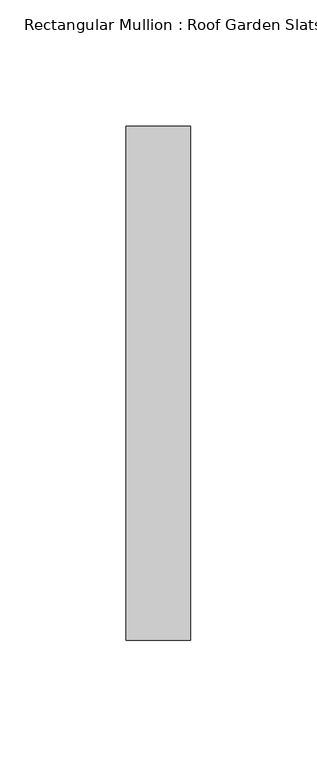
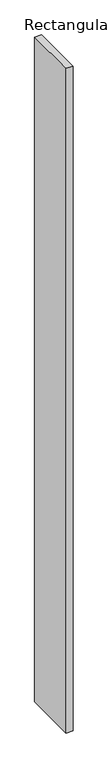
"""IFC4 building model written with IfcOpenShell, lengths in millimetres: member geometry, Rectangular Mullion : Roof Garden Slats."""

from ifc_helpers import new_model, si_unit, frame, origin, place, context, project, spatial, polyline, outline, extrude, source, transform, mapped, element, save


def rectangular_mullion_roof_garden_slats_a8199086(model_context):
    return source(origin(), model_context, "Body", "SweptSolid", [
        extrude(outline(polyline([(12.7, 139.7), (12.7, -63.5), (-12.7, -63.5), (-12.7, 139.7), (12.7, 139.7)])), frame((0.0, 0.0, -2622.0370576), z_axis=(0.0, 0.0, 1.0), x_axis=(1.0, 0.0, 0.0)), (0.0, 0.0, 1.0), 2622.0370576),
    ])


if __name__ == "__main__":
    model = new_model("IFC4")
    model_context = context("Model", 3, world=origin())
    ifc_project = project(units=[si_unit("LENGTHUNIT", "METRE", prefix="MILLI")], contexts=[model_context])
    site = spatial("IfcSite", under=ifc_project)
    building = spatial("IfcBuilding", under=site)
    placement = place(None, origin())
    rectangular_mullion_roof_garden_slats_shape = rectangular_mullion_roof_garden_slats_a8199086(model_context)
    element("IfcMember", 1, ObjectType="Rectangular Mullion : Roof Garden Slats", at=placement, inside=building, context=model_context, shape_type="MappedRepresentation", body=[
        mapped(rectangular_mullion_roof_garden_slats_shape, transform((0.0, 0.0, 0.0), x_axis=(1.0, 0.0, 0.0), y_axis=(0.0, 1.0, 0.0), z_axis=(0.0, 0.0, 1.0))),
    ])
    save(model, "model.ifc")
